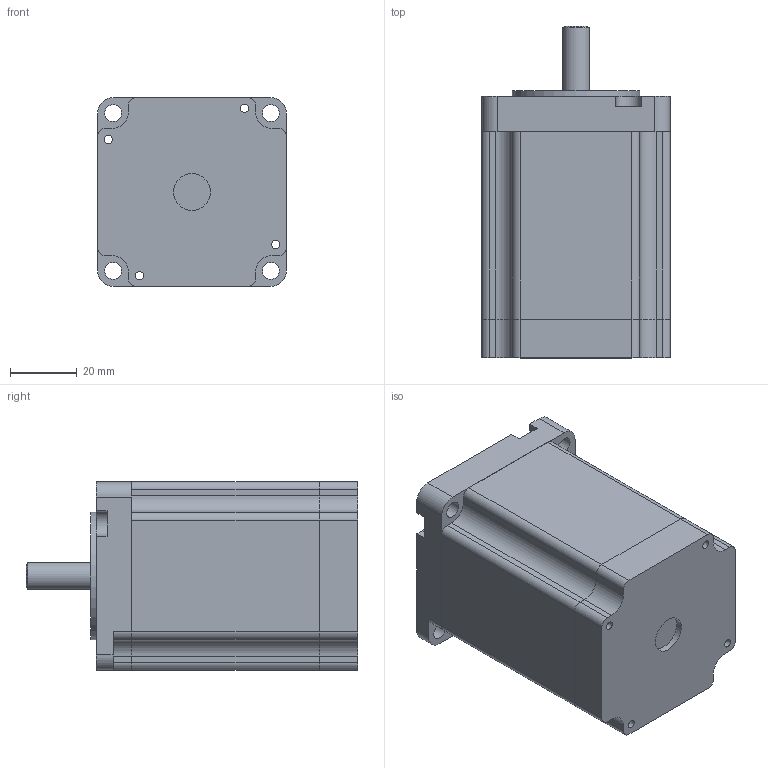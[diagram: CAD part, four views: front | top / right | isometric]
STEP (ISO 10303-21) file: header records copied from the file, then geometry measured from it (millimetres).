
FILE_DESCRIPTION(/* description */ (''),/* implementation_level */ '2;1');
FILE_NAME(/* name */ 'C:\Users\raffaele\Downloads\Projects\E&D\ipt-to-step-conversion\SLDPRT to STP\573P79.stp',/* time_stamp */ '2021-04-07T17:16:23+02:00',/* author */ ('raffaele'),/* organization */ (''),/* preprocessor_version */ 'ST-DEVELOPER v18.1',/* originating_system */ 'Autodesk Inventor 2021',/* authorisation */ '');
FILE_SCHEMA (('AUTOMOTIVE_DESIGN { 1 0 10303 214 3 1 1 }'));
Length unit declared in the file: inch
Products named in the file (1): 573P79
Bounding box: 56.4 x 99.2 x 56.4 mm (x, y, z)
Surface area: 27743.6 mm2 (no closed solid volume)
Topology: 0 solids, 5 shells, 104 faces, 299 edges, 203 vertices
Faces by surface type: plane 51, cylinder 51, cone 2
Full cylindrical faces by diameter (mm): 2.5 x4, 3.2 x4, 5 x4, 8 x1, 10 x1, 11 x1, 38.1 x1
Entity records: 3630 total; most frequent: DIRECTION 626, CARTESIAN_POINT 607, ORIENTED_EDGE 532, EDGE_CURVE 299, AXIS2_PLACEMENT_3D 222, VERTEX_POINT 203, LINE 182, VECTOR 182
